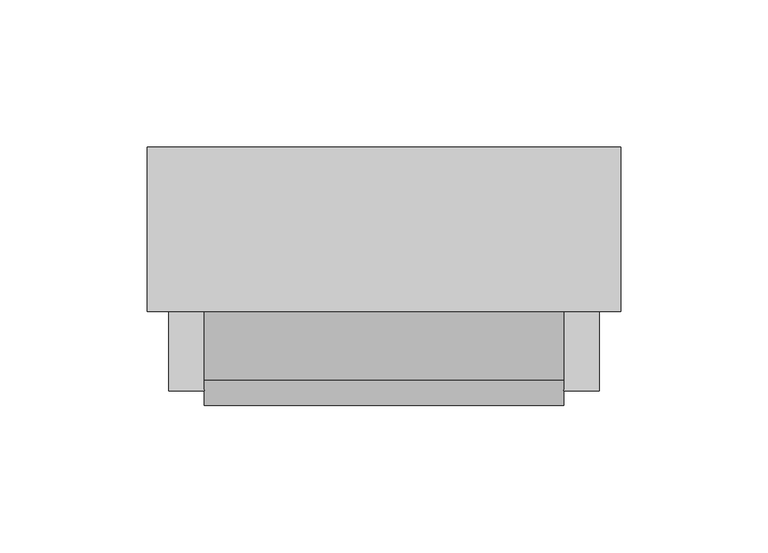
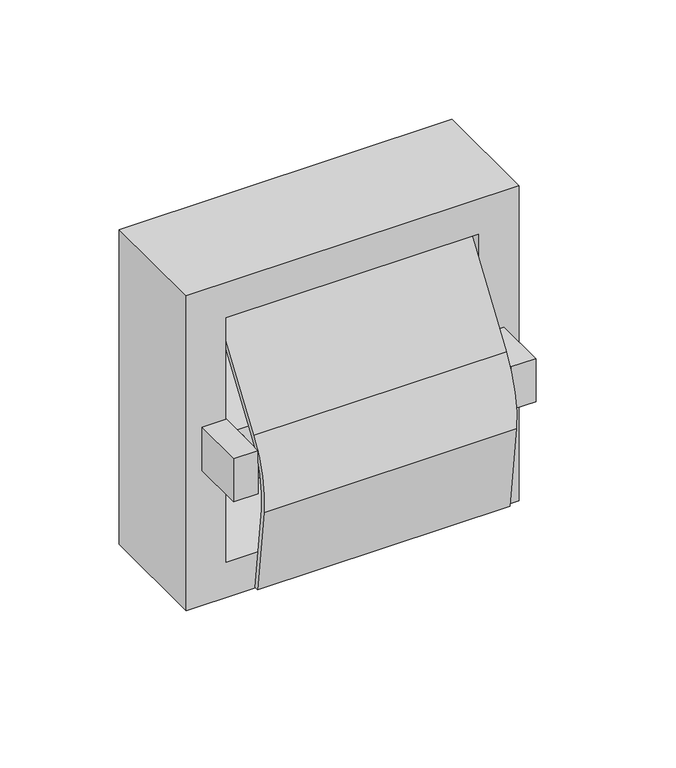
"""IFC4 building model written with IfcOpenShell, lengths in millimetres: proxy geometry, Toilet Roll Dispenser_Metlam_Single_Surface Mounted_Hooded : 161w x 88d x 161h (ML261SM_S)."""

import ifcopenshell
import ifcopenshell.guid

model = None  # the IFC model being written
_history = None  # IfcOwnerHistory: only IFC2X3 demands one
_inside = {}  # id of a spatial element -> (the spatial element, [elements in it])
_under = {}  # id of a project, library or spatial element -> (it, [spatial elements below it])
_declared = {}  # id of a project -> (the project, [libraries it declares])
_typed = {}  # id of a type object -> (the type object, [elements of that type])
_made_of = {}  # id of a material, layer set ... -> (it, [elements and type objects made of it])


def new_model(schema):
    """Start an empty IFC model of exactly this schema.

    Asked for "IFC4X3", IfcOpenShell would pick the latest addendum, in which some entities
    have other attributes; the version numbers below select the first issue.
    IFC2X3 requires an IfcOwnerHistory on every rooted entity: one is made here for all.
    """
    global model, _history
    if schema == "IFC4X3":
        model = ifcopenshell.file(schema_version=(4, 3, 0, 0))
    else:
        model = ifcopenshell.file(schema=schema)
    _inside.clear()
    _under.clear()
    _declared.clear()
    _typed.clear()
    _made_of.clear()
    _history = None
    if model.schema == "IFC2X3":
        org = make("IfcOrganization", Name="unknown")
        user = make(
            "IfcPersonAndOrganization",
            ThePerson=make("IfcPerson", FamilyName="unknown"),
            TheOrganization=org,
        )
        app = make(
            "IfcApplication",
            ApplicationDeveloper=org,
            Version="unknown",
            ApplicationFullName="unknown",
            ApplicationIdentifier="unknown",
        )
        _history = make(
            "IfcOwnerHistory",
            OwningUser=user,
            OwningApplication=app,
            ChangeAction="ADDED",
            CreationDate=0,
        )
    return model


def make(cls, **values):
    """One entity of the class cls with the attributes given. An attribute that is None is left unset."""
    return model.create_entity(
        cls, **{name: value for name, value in values.items() if value is not None}
    )


def rooted(cls, **values):
    """An entity with a GlobalId (a new one), such as an element, a storey or a relation."""
    return make(cls, GlobalId=ifcopenshell.guid.new(), OwnerHistory=_history, **values)


def si_unit(unit_type, name, prefix=None):
    """IfcSIUnit, for example si_unit("LENGTHUNIT", "METRE", prefix="MILLI")."""
    return make("IfcSIUnit", UnitType=unit_type, Prefix=prefix, Name=name)


def assignment(units):
    """IfcUnitAssignment: the units of a project."""
    return None if units is None else make("IfcUnitAssignment", Units=units)


def point(xyz):
    """IfcCartesianPoint."""
    return None if xyz is None else make("IfcCartesianPoint", Coordinates=xyz)


def direction(xyz):
    """IfcDirection."""
    return None if xyz is None else make("IfcDirection", DirectionRatios=xyz)


def frame(location, z_axis=None, x_axis=None):
    """IfcAxis2Placement3D, a coordinate frame: its origin and axes. An axis left out is left unset."""
    return make(
        "IfcAxis2Placement3D",
        Location=point(location),
        Axis=direction(z_axis),
        RefDirection=direction(x_axis),
    )


def frame_2d(location, x_axis=None):
    """IfcAxis2Placement2D, a coordinate frame in the plane: its origin and x axis."""
    return make(
        "IfcAxis2Placement2D", Location=point(location), RefDirection=direction(x_axis)
    )


def origin():
    """The frame at (0, 0, 0) with its axes left unset."""
    return frame((0.0, 0.0, 0.0))


def place(relative_to, where):
    """IfcLocalPlacement: puts the frame where relative to a parent placement (None: the world)."""
    return make(
        "IfcLocalPlacement", PlacementRelTo=relative_to, RelativePlacement=where
    )


def context(
    kind, dimensions, precision=None, world=None, true_north=None, identifier=None
):
    """IfcGeometricRepresentationContext, for example the 3D "Model" context."""
    return make(
        "IfcGeometricRepresentationContext",
        ContextIdentifier=identifier,
        ContextType=kind,
        CoordinateSpaceDimension=dimensions,
        Precision=precision,
        WorldCoordinateSystem=world,
        TrueNorth=true_north,
    )


def project(units=None, contexts=None):
    """IfcProject with its units and contexts."""
    return rooted(
        "IfcProject",
        Name="project",
        RepresentationContexts=contexts,
        UnitsInContext=assignment(units),
    )


def spatial(cls, under=None, at=None, **own):
    """A site, building, storey or space (cls), placed at a placement, below another one or the project."""
    s = rooted(cls, ObjectPlacement=at, **own)
    if under is not None:
        _under.setdefault(under.id(), (under, []))[1].append(s)
    return s


def polyline(points):
    """IfcPolyline through the points."""
    return make("IfcPolyline", Points=[point(p) for p in points])


def circle_curve(where, radius):
    """IfcCircle in the frame where."""
    return make("IfcCircle", Position=where, Radius=radius)


def trimmed(basis, trim1, trim2, sense, master):
    """IfcTrimmedCurve: the piece of a basis curve between two trims."""
    return make(
        "IfcTrimmedCurve",
        BasisCurve=basis,
        Trim1=trim1,
        Trim2=trim2,
        SenseAgreement=sense,
        MasterRepresentation=master,
    )


def segment(curve, same_sense, transition):
    """IfcCompositeCurveSegment."""
    return make(
        "IfcCompositeCurveSegment",
        Transition=transition,
        SameSense=same_sense,
        ParentCurve=curve,
    )


def composite_curve(segments, self_intersect=None):
    """IfcCompositeCurve: segments joined end to end."""
    return make("IfcCompositeCurve", Segments=segments, SelfIntersect=self_intersect)


def outline(outer, holes=None, kind="AREA"):
    """IfcArbitraryClosedProfileDef: a profile drawn as a closed curve; with holes, ...WithVoids."""
    if holes is None:
        return make("IfcArbitraryClosedProfileDef", ProfileType=kind, OuterCurve=outer)
    return make(
        "IfcArbitraryProfileDefWithVoids",
        ProfileType=kind,
        OuterCurve=outer,
        InnerCurves=holes,
    )


def extrude(swept, where, along, depth):
    """IfcExtrudedAreaSolid: the profile swept, set in the frame where, extruded along a direction by depth."""
    return make(
        "IfcExtrudedAreaSolid",
        SweptArea=swept,
        Position=where,
        ExtrudedDirection=direction(along),
        Depth=depth,
    )


def shape(context_of_items, identifier, shape_type, items):
    """IfcShapeRepresentation: the items that make up one representation, for example the "Body"."""
    return make(
        "IfcShapeRepresentation",
        ContextOfItems=context_of_items,
        RepresentationIdentifier=identifier,
        RepresentationType=shape_type,
        Items=items,
    )


def source(mapping_origin, context_of_items, identifier, shape_type, items):
    """IfcRepresentationMap: a shape defined once, which mapped items show again and again."""
    return make(
        "IfcRepresentationMap",
        MappingOrigin=mapping_origin,
        MappedRepresentation=shape(context_of_items, identifier, shape_type, items),
    )


def transform(
    local_origin,
    x_axis=None,
    y_axis=None,
    z_axis=None,
    scale=None,
    scale2=None,
    scale3=None,
    uniform=True,
):
    """IfcCartesianTransformationOperator3D, or its non-uniform kind. x_axis, y_axis, z_axis: its Axis1, 2, 3."""
    if uniform:
        return make(
            "IfcCartesianTransformationOperator3D",
            Axis1=direction(x_axis),
            Axis2=direction(y_axis),
            LocalOrigin=point(local_origin),
            Scale=scale,
            Axis3=direction(z_axis),
        )
    return make(
        "IfcCartesianTransformationOperator3DnonUniform",
        Axis1=direction(x_axis),
        Axis2=direction(y_axis),
        LocalOrigin=point(local_origin),
        Scale=scale,
        Axis3=direction(z_axis),
        Scale2=scale2,
        Scale3=scale3,
    )


def mapped(mapping_source, mapping_target):
    """IfcMappedItem: shows the shape of a source again, moved by a transform."""
    return make(
        "IfcMappedItem", MappingSource=mapping_source, MappingTarget=mapping_target
    )


def made_of(thing, what):
    """Note that an element or type object is made of a material, layer set ...; save() writes the relation."""
    if what is not None:
        _made_of.setdefault(what.id(), (what, []))[1].append(thing)
    return thing


def element(
    cls,
    number,
    at=None,
    inside=None,
    cuts=None,
    type_object=None,
    material=None,
    context=None,
    identifier="Body",
    shape_type=None,
    held_by="IfcProductDefinitionShape",
    body=None,
    shapes=None,
    **own,
):
    """One element of the class cls, such as IfcWall. Its Tag is "e" and its number.

    at: its placement. inside: the storey or other place that contains it. cuts: it is an
    opening in that element (IfcRelVoidsElement). A single representation is given by context,
    identifier, shape_type and body (its items); several are given by shapes. held_by: the class
    of the entity that holds the representations. save() writes the other relations.
    """
    e = rooted(cls, Tag="e%d" % number, ObjectPlacement=at, **own)
    if body is not None:
        shapes = [shape(context, identifier, shape_type, body)]
    if shapes is not None:
        e.Representation = make(held_by, Representations=shapes)
    if inside is not None:
        _inside.setdefault(inside.id(), (inside, []))[1].append(e)
    if cuts is not None:
        rooted(
            "IfcRelVoidsElement", RelatingBuildingElement=cuts, RelatedOpeningElement=e
        )
    if type_object is not None:
        _typed.setdefault(type_object.id(), (type_object, []))[1].append(e)
    return made_of(e, material)


def aggregate(whole, parts):
    """IfcRelAggregates: a whole, such as a stair, and the parts it consists of."""
    return rooted("IfcRelAggregates", RelatingObject=whole, RelatedObjects=parts)


def save(model, path):
    """Write the relations noted so far, then the file.

    IfcRelAggregates (storeys below a building ...), IfcRelContainedInSpatialStructure (elements
    in a storey), IfcRelDefinesByType, IfcRelAssociatesMaterial and IfcRelDeclares: one each for
    every whole, place, type object, material and project.
    """
    for whole, parts in _under.values():
        aggregate(whole, parts)
    for where, things in _inside.values():
        rooted(
            "IfcRelContainedInSpatialStructure",
            RelatedElements=things,
            RelatingStructure=where,
        )
    for kind, things in _typed.values():
        rooted("IfcRelDefinesByType", RelatedObjects=things, RelatingType=kind)
    for what, things in _made_of.values():
        rooted("IfcRelAssociatesMaterial", RelatedObjects=things, RelatingMaterial=what)
    for by, libraries in _declared.values():
        rooted("IfcRelDeclares", RelatingContext=by, RelatedDefinitions=libraries)
    model.write(path)


def plane_surface(at):
    """IfcPlane: the flat surface through the origin of the frame at, square to its z axis."""
    return make("IfcPlane", Position=at)


def cylinder_surface(at, radius):
    """IfcCylindricalSurface: all points at the distance radius from the z axis of the frame at."""
    return make("IfcCylindricalSurface", Position=at, Radius=radius)


def revolved_surface(curve, axis_point, axis_direction):
    """IfcSurfaceOfRevolution: the curve turned about the line through axis_point along axis_direction."""
    return make(
        "IfcSurfaceOfRevolution",
        SweptCurve=make("IfcArbitraryOpenProfileDef", ProfileType="CURVE", Curve=curve),
        AxisPosition=make("IfcAxis1Placement", Location=point(axis_point), Axis=direction(axis_direction)),
    )


def advanced_brep(points, edges, surfaces, faces):
    """IfcAdvancedBrep: a solid bounded by faces that lie on surfaces and meet in shared edges.

    An edge is (start, end): straight between two places in points (the first is 0);
    or (start, end, curve); or (start, end, curve, False) where it runs against its curve.
    A face is (place in surfaces, loops), or (place, loops, False) where it looks against
    its surface's normal. A loop lists edges by number (the first is 1), with a minus sign
    where the edge is run from its end to its start. The first loop is the outer one.
    """
    corners = [point(p) for p in points]
    vertices = [make("IfcVertexPoint", VertexGeometry=c) for c in corners]
    made = []
    for start, end, *more in edges:
        made.append(
            make(
                "IfcEdgeCurve",
                EdgeStart=vertices[start],
                EdgeEnd=vertices[end],
                EdgeGeometry=more[0] if more else make("IfcPolyline", Points=[corners[start], corners[end]]),
                SameSense=more[1] if len(more) > 1 else True,
            )
        )
    hull = []
    for where, loops, *sense in faces:
        bounds = []
        for j, loop in enumerate(loops):
            ring = [make("IfcOrientedEdge", EdgeElement=made[abs(k) - 1], Orientation=k > 0) for k in loop]
            bounds.append(
                make(
                    "IfcFaceOuterBound" if j == 0 else "IfcFaceBound",
                    Bound=make("IfcEdgeLoop", EdgeList=ring),
                    Orientation=True,
                )
            )
        hull.append(make("IfcAdvancedFace", Bounds=bounds, FaceSurface=surfaces[where], SameSense=sense[0] if sense else True))
    return make("IfcAdvancedBrep", Outer=make("IfcClosedShell", CfsFaces=hull))


def specialty_equipment_abbd40d7(model_context):
    return source(origin(), model_context, "Body", "SolidModel", [
        extrude(outline(composite_curve([segment(trimmed(circle_curve(frame_2d((-38.0, 573.2090239)), 48.0), [point((-77.5531086, 600.4037219))], [point((-85.6422153, 567.3592954))], True, "CARTESIAN"), True, "CONTINUOUS"), segment(polyline([(-85.6422153, 567.3592954), (-80.3797555, 524.5), (-82.3947752, 524.5), (-87.6273076, 567.1155567)]), True, "CONTINUOUS"), segment(trimmed(circle_curve(frame_2d((-38.0, 573.2090239)), 50.0), [point((-87.6273076, 567.1155567))], [point((-79.2011548, 601.5368343))], False, "CARTESIAN"), True, "CONTINUOUS"), segment(polyline([(-79.2011548, 601.5368343), (-49.0205739, 645.4327363), (-47.3725277, 644.2996238), (-77.5531086, 600.4037219)]), True, "CONTINUOUS")], self_intersect=False)), frame((-61.1146464, 0.0, 0.0), z_axis=(1.0, 0.0, 0.0), x_axis=(0.0, 1.0, 0.0)), (0.0, 0.0, 1.0), 122.2292927),
        advanced_brep(
        [(80.5, -56.0, 665.5), (-80.5, -56.0, 665.5), (-80.5, -56.0, 504.5), (80.5, -56.0, 504.5), (61.1146464, -56.0, 647.4824309), (61.1146464, -56.0, 522.5175691), (-61.1146464, -56.0, 522.5175691), (-61.1146464, -56.0, 647.4824309), (80.5, 0.0, 665.5), (80.5, 0.0, 504.5), (-80.5, 0.0, 504.5), (-80.5, 0.0, 665.5)],
        [
            (0, 1),
            (1, 2),
            (2, 3),
            (3, 0),
            (4, 5),
            (5, 6),
            (6, 7),
            (7, 4),
            (8, 9),
            (9, 10),
            (10, 11),
            (11, 8),
            (0, 8),
            (11, 1),
            (10, 2),
            (9, 3),
            (4, 5, circle_curve(frame((61.1146464, -69.8544514, 585.0), z_axis=(-1.0, 0.0, 0.0), x_axis=(0.0, 1.0, 0.0)), 64.0)),
            (6, 7, circle_curve(frame((-61.1146464, -69.8544514, 585.0), z_axis=(1.0, 0.0, 0.0), x_axis=(0.0, 1.0, 0.0)), 64.0)),
        ],
        [
            plane_surface(frame((-80.5, -56.0, 665.5), z_axis=(0.0, -1.0, 0.0), x_axis=(-1.0, 0.0, 0.0))),
            plane_surface(frame((-80.5, 0.0, 665.5), z_axis=(0.0, 1.0, 0.0), x_axis=(1.0, 0.0, 0.0))),
            plane_surface(frame((80.5, -56.0, 665.5), z_axis=(0.0, 0.0, 1.0), x_axis=(0.0, 1.0, 0.0))),
            plane_surface(frame((-80.5, -56.0, 665.5), z_axis=(-1.0, 0.0, 0.0), x_axis=(0.0, 1.0, 0.0))),
            plane_surface(frame((-80.5, -56.0, 504.5), z_axis=(0.0, 0.0, -1.0), x_axis=(0.0, 1.0, 0.0))),
            plane_surface(frame((80.5, -56.0, 504.5), z_axis=(1.0, 0.0, 0.0), x_axis=(0.0, 1.0, 0.0))),
            plane_surface(frame((61.1146464, -56.0, 522.5175691), z_axis=(-1.0, 0.0, 0.0), x_axis=(0.0, 0.0, -1.0))),
            plane_surface(frame((-61.1146464, -56.0, 522.5175691), z_axis=(1.0, 0.0, 0.0), x_axis=(0.0, 0.0, 1.0))),
            revolved_surface(polyline([(61.1146464, -5.854451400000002, 585.0), (-61.1146464, -5.854451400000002, 585.0)]), (-61.1146464, -69.8544514, 585.0), (1.0, 0.0, 0.0)),
        ],
        [
            (0, [[1, 2, 3, 4], [5, 6, 7, 8]]),
            (1, [[9, 10, 11, 12]]),
            (2, [[-1, 13, -12, 14]]),
            (3, [[-2, -14, -11, 15]]),
            (4, [[-3, -15, -10, 16]]),
            (5, [[-4, -16, -9, -13]]),
            (6, [[17, -5]]),
            (7, [[18, -7]]),
            (8, [[-17, -8, -18, -6]]),
        ],
    ),
        extrude(outline(polyline([(-73.1248355, -83.0), (-73.1248355, -56.0), (-61.1146464, -56.0), (-61.1146464, -83.0), (-73.1248355, -83.0)])), frame((0.0, 0.0, 574.0), z_axis=(0.0, 0.0, 1.0), x_axis=(1.0, 0.0, 0.0)), (0.0, 0.0, 1.0), 22.0),
        extrude(outline(polyline([(73.1248355, -56.0), (73.1248355, -83.0), (61.1146464, -83.0), (61.1146464, -56.0), (73.1248355, -56.0)])), frame((0.0, 0.0, 574.0), z_axis=(0.0, 0.0, 1.0), x_axis=(1.0, 0.0, 0.0)), (0.0, 0.0, 1.0), 22.0),
        advanced_brep(
        [(-61.1146464, -58.3201367, 585.0), (-61.1146464, -80.3201367, 585.0), (-61.1146464, -69.3201367, 585.0), (0.0, -58.3201367, 585.0), (0.0, -80.3201367, 585.0), (0.0, -59.8201367, 585.0), (0.0, -78.8201367, 585.0), (61.1146464, -59.8201367, 585.0), (61.1146464, -78.8201367, 585.0), (61.1146464, -69.3201367, 585.0)],
        [
            (0, 1, circle_curve(frame((-61.1146464, -69.3201367, 585.0), z_axis=(-1.0, 0.0, 0.0), x_axis=(0.0, -1.0, 0.0)), 11.0)),
            (1, 2),
            (2, 0),
            (1, 0, circle_curve(frame((-61.1146464, -69.3201367, 585.0), z_axis=(-1.0, 0.0, 0.0), x_axis=(0.0, -1.0, 0.0)), 11.0)),
            (3, 4, circle_curve(frame((0.0, -69.3201367, 585.0), z_axis=(-1.0, 0.0, 0.0), x_axis=(0.0, -1.0, 0.0)), 11.0)),
            (4, 1),
            (0, 3),
            (4, 3, circle_curve(frame((0.0, -69.3201367, 585.0), z_axis=(-1.0, 0.0, 0.0), x_axis=(0.0, -1.0, 0.0)), 11.0)),
            (5, 6, circle_curve(frame((0.0, -69.3201367, 585.0), z_axis=(-1.0, 0.0, 0.0), x_axis=(0.0, -1.0, 0.0)), 9.5)),
            (6, 4),
            (3, 5),
            (6, 5, circle_curve(frame((0.0, -69.3201367, 585.0), z_axis=(-1.0, 0.0, 0.0), x_axis=(0.0, -1.0, 0.0)), 9.5)),
            (7, 8, circle_curve(frame((61.1146464, -69.3201367, 585.0), z_axis=(-1.0, 0.0, 0.0), x_axis=(0.0, -1.0, 0.0)), 9.5)),
            (8, 6),
            (5, 7),
            (8, 7, circle_curve(frame((61.1146464, -69.3201367, 585.0), z_axis=(-1.0, 0.0, 0.0), x_axis=(0.0, -1.0, 0.0)), 9.5)),
            (9, 8),
            (7, 9),
        ],
        [
            plane_surface(frame((-61.1146464, -69.3201367, 585.0), z_axis=(-1.0, 0.0, 0.0), x_axis=(0.0, -1.0, 0.0))),
            cylinder_surface(frame((-17.5, -69.3201367, 585.0), z_axis=(1.0, 0.0, 0.0), x_axis=(0.0, -1.0, 0.0)), 11.0),
            plane_surface(frame((0.0, -69.3201367, 585.0), z_axis=(1.0, 0.0, 0.0), x_axis=(0.0, -1.0, 0.0))),
            cylinder_surface(frame((-17.5, -69.3201367, 585.0), z_axis=(1.0, 0.0, 0.0), x_axis=(0.0, -1.0, 0.0)), 9.5),
            plane_surface(frame((61.1146464, -69.3201367, 585.0), z_axis=(1.0, 0.0, 0.0), x_axis=(0.0, -1.0, 0.0))),
        ],
        [
            (0, [[1, 2, 3]]),
            (0, [[4, -3, -2]]),
            (1, [[5, 6, -1, 7]]),
            (1, [[8, -7, -4, -6]]),
            (2, [[9, 10, -5, 11]]),
            (2, [[12, -11, -8, -10]]),
            (3, [[13, 14, -9, 15]]),
            (3, [[16, -15, -12, -14]]),
            (4, [[17, -13, 18]]),
            (4, [[-18, -16, -17]]),
        ],
    ),
    ])


if __name__ == "__main__":
    model = new_model("IFC4")
    model_context = context("Model", 3, world=origin())
    ifc_project = project(units=[si_unit("LENGTHUNIT", "METRE", prefix="MILLI")], contexts=[model_context])
    site = spatial("IfcSite", under=ifc_project)
    building = spatial("IfcBuilding", under=site)
    placement = place(None, origin())
    specialty_equipment_shape = specialty_equipment_abbd40d7(model_context)
    element("IfcBuildingElementProxy", 1, Name="Toilet Roll Dispenser_Metlam_Single_Surface Mounted_Hooded : 161w x 88d x 161h (ML261SM_S)", ObjectType="Toilet Roll Dispenser_Metlam_Single_Surface Mounted_Hooded : 161w x 88d x 161h (ML261SM_S)", at=placement, inside=building, context=model_context, shape_type="MappedRepresentation", body=[
        mapped(specialty_equipment_shape, transform((0.0, 0.0, 0.0), x_axis=(1.0, 0.0, 0.0), y_axis=(0.0, 1.0, 0.0), z_axis=(0.0, 0.0, 1.0))),
    ])
    save(model, "model.ifc")
